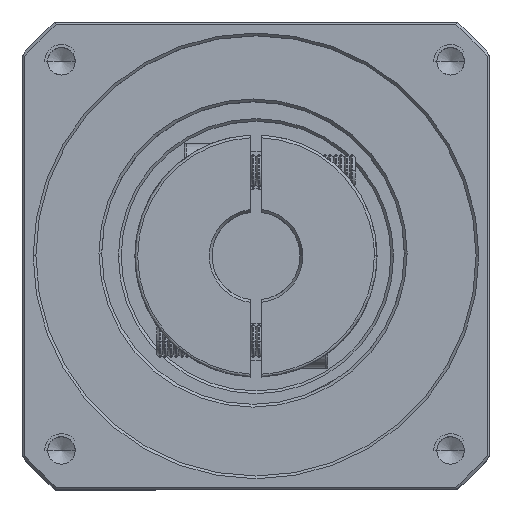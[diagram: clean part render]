
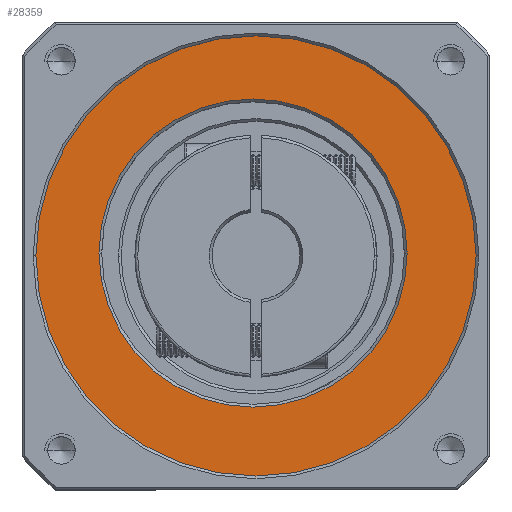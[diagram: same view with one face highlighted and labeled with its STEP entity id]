
A CAD part, top view. The second image highlights one B-rep face of the part: STEP entity #28359.
In plain terms, the highlighted planar face has unit normal (0, 0, 1).
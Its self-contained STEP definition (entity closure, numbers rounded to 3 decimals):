
#3842 = FACE_BOUND ( 'NONE', #47765, .T. ) ;
#8173 = VERTEX_POINT ( 'NONE', #95137 ) ;
#10141 = DIRECTION ( 'NONE',  ( 0., 0., -1. ) ) ;
#12923 = DIRECTION ( 'NONE',  ( 0., 0., -1. ) ) ;
#13192 = VERTEX_POINT ( 'NONE', #110950 ) ;
#19664 = AXIS2_PLACEMENT_3D ( 'NONE', #69133, #10141, #78912 ) ;
#23559 = DIRECTION ( 'NONE',  ( 0., 0., 1. ) ) ;
#28359 = ADVANCED_FACE ( 'NONE', ( #29975, #3842 ), #50469, .T. ) ;
#29358 = AXIS2_PLACEMENT_3D ( 'NONE', #71836, #12923, #81685 ) ;
#29633 = CIRCLE ( 'NONE', #19664, 28. ) ;
#29975 = FACE_OUTER_BOUND ( 'NONE', #100277, .T. ) ;
#32815 = VERTEX_POINT ( 'NONE', #36837 ) ;
#34957 = DIRECTION ( 'NONE',  ( 0., 0., 1. ) ) ;
#36837 = CARTESIAN_POINT ( 'NONE',  ( -124.468, 19.045, 20.519 ) ) ;
#41031 = DIRECTION ( 'NONE',  ( 0., 0., 1. ) ) ;
#43209 = AXIS2_PLACEMENT_3D ( 'NONE', #82465, #23559, #92329 ) ;
#45598 = AXIS2_PLACEMENT_3D ( 'NONE', #93815, #34957, #103744 ) ;
#47765 = EDGE_LOOP ( 'NONE', ( #57282, #80166 ) ) ;
#50469 = PLANE ( 'NONE',  #89731 ) ;
#55568 = ORIENTED_EDGE ( 'NONE', *, *, #99789, .T. ) ;
#57282 = ORIENTED_EDGE ( 'NONE', *, *, #65281, .T. ) ;
#65281 = EDGE_CURVE ( 'NONE', #8173, #32815, #104293, .T. ) ;
#69053 = CIRCLE ( 'NONE', #43209, 40. ) ;
#69091 = CARTESIAN_POINT ( 'NONE',  ( -55.926, 18.511, 20.519 ) ) ;
#69133 = CARTESIAN_POINT ( 'NONE',  ( -96.468, 19.045, 20.519 ) ) ;
#71836 = CARTESIAN_POINT ( 'NONE',  ( -96.468, 19.045, 20.519 ) ) ;
#74831 = EDGE_CURVE ( 'NONE', #124610, #13192, #69053, .T. ) ;
#78912 = DIRECTION ( 'NONE',  ( 1., 0., 0. ) ) ;
#80166 = ORIENTED_EDGE ( 'NONE', *, *, #120005, .T. ) ;
#81685 = DIRECTION ( 'NONE',  ( 1., 0., 0. ) ) ;
#82465 = CARTESIAN_POINT ( 'NONE',  ( -95.926, 18.511, 20.519 ) ) ;
#86119 = CIRCLE ( 'NONE', #45598, 40. ) ;
#89731 = AXIS2_PLACEMENT_3D ( 'NONE', #99880, #41031, #109766 ) ;
#92329 = DIRECTION ( 'NONE',  ( 1., 0., 0. ) ) ;
#93815 = CARTESIAN_POINT ( 'NONE',  ( -95.926, 18.511, 20.519 ) ) ;
#95137 = CARTESIAN_POINT ( 'NONE',  ( -68.468, 19.045, 20.519 ) ) ;
#99789 = EDGE_CURVE ( 'NONE', #13192, #124610, #86119, .T. ) ;
#99880 = CARTESIAN_POINT ( 'NONE',  ( -95.926, 18.511, 20.519 ) ) ;
#100277 = EDGE_LOOP ( 'NONE', ( #114749, #55568 ) ) ;
#103744 = DIRECTION ( 'NONE',  ( 1., 0., 0. ) ) ;
#104293 = CIRCLE ( 'NONE', #29358, 28. ) ;
#109766 = DIRECTION ( 'NONE',  ( 1., 0., 0. ) ) ;
#110950 = CARTESIAN_POINT ( 'NONE',  ( -135.926, 18.511, 20.519 ) ) ;
#114749 = ORIENTED_EDGE ( 'NONE', *, *, #74831, .T. ) ;
#120005 = EDGE_CURVE ( 'NONE', #32815, #8173, #29633, .T. ) ;
#124610 = VERTEX_POINT ( 'NONE', #69091 ) ;
